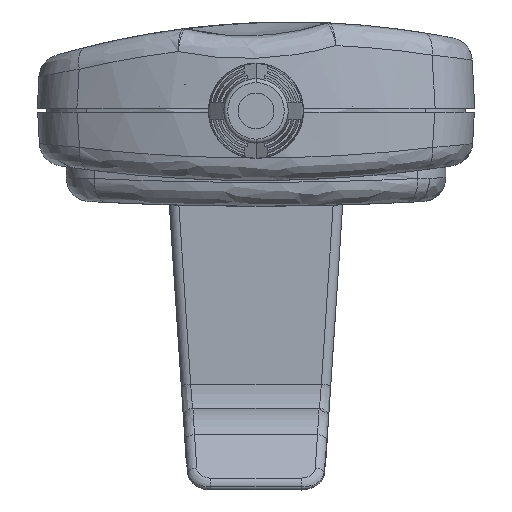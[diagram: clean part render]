
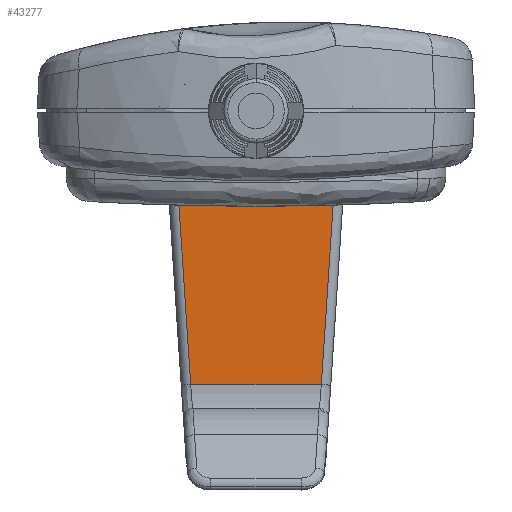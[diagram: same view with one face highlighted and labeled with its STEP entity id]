
A CAD part, front view. The second image highlights one B-rep face of the part: STEP entity #43277.
In plain terms, the highlighted planar face has unit normal (0, -1, -0.021).
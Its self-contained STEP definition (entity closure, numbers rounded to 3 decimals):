
#12397=DIRECTION('',(-1.,0.,0.));
#12398=VECTOR('',#12397,24.2);
#12399=CARTESIAN_POINT('',(12.1,62.25,-2.85));
#12400=LINE('',#12399,#12398);
#12401=DIRECTION('',(0.,0.021,-1.));
#12402=VECTOR('',#12401,6.001);
#12403=CARTESIAN_POINT('',(12.1,62.25,-2.85));
#12404=LINE('',#12403,#12402);
#12405=DIRECTION('',(-1.,0.,0.));
#12406=VECTOR('',#12405,1.781);
#12407=CARTESIAN_POINT('',(11.78,62.378,-8.85));
#12408=LINE('',#12407,#12406);
#12409=DIRECTION('',(-0.066,0.021,-0.998));
#12410=VECTOR('',#12409,26.895);
#12411=CARTESIAN_POINT('',(9.999,62.378,-8.85));
#12412=LINE('',#12411,#12410);
#12413=DIRECTION('',(-0.066,-0.021,0.998));
#12414=VECTOR('',#12413,26.895);
#12415=CARTESIAN_POINT('',(-8.224,62.948,
-35.68));
#12416=LINE('',#12415,#12414);
#12526=DIRECTION('',(1.,0.,0.));
#12527=VECTOR('',#12526,0.32);
#12528=CARTESIAN_POINT('',(11.78,62.378,-8.85));
#12529=LINE('',#12528,#12527);
#12602=DIRECTION('',(0.,0.021,-1.));
#12603=VECTOR('',#12602,6.001);
#12604=CARTESIAN_POINT('',(-12.1,62.25,-2.85));
#12605=LINE('',#12604,#12603);
#12632=DIRECTION('',(-1.,0.,0.));
#12633=VECTOR('',#12632,0.32);
#12634=CARTESIAN_POINT('',(-11.78,62.378,-8.85));
#12635=LINE('',#12634,#12633);
#12697=DIRECTION('',(1.,0.,0.));
#12698=VECTOR('',#12697,1.781);
#12699=CARTESIAN_POINT('',(-11.78,62.378,-8.85));
#12700=LINE('',#12699,#12698);
#13210=DIRECTION('',(1.,0.,0.));
#13211=VECTOR('',#13210,16.447);
#13212=CARTESIAN_POINT('',(-8.224,62.948,
-35.68));
#13213=LINE('',#13212,#13211);
#16213=CARTESIAN_POINT('',(9.999,62.378,-8.85));
#16214=CARTESIAN_POINT('',(8.224,62.948,
-35.68));
#16215=VERTEX_POINT('',#16213);
#16216=VERTEX_POINT('',#16214);
#16217=CARTESIAN_POINT('',(-8.224,62.948,
-35.68));
#16218=CARTESIAN_POINT('',(-9.999,62.378,-8.85));
#16219=VERTEX_POINT('',#16217);
#16220=VERTEX_POINT('',#16218);
#18767=CARTESIAN_POINT('',(12.1,62.378,-8.85));
#18768=VERTEX_POINT('',#18767);
#18771=CARTESIAN_POINT('',(11.78,62.378,-8.85));
#18772=VERTEX_POINT('',#18771);
#18779=CARTESIAN_POINT('',(-11.78,62.378,-8.85));
#18780=CARTESIAN_POINT('',(-12.1,62.378,-8.85));
#18781=VERTEX_POINT('',#18779);
#18782=VERTEX_POINT('',#18780);
#18801=CARTESIAN_POINT('',(12.1,62.25,-2.85));
#18803=VERTEX_POINT('',#18801);
#18825=CARTESIAN_POINT('',(-12.1,62.25,-2.85));
#18826=VERTEX_POINT('',#18825);
#43251=CARTESIAN_POINT('',(0.,62.599,-19.265));
#43252=DIRECTION('',(0.,1.,0.021));
#43253=DIRECTION('',(0.,-0.021,1.));
#43254=AXIS2_PLACEMENT_3D('',#43251,#43252,#43253);
#43255=PLANE('',#43254);
#43256=ORIENTED_EDGE('',*,*,#43230,.F.);
#43258=ORIENTED_EDGE('',*,*,#43257,.T.);
#43260=ORIENTED_EDGE('',*,*,#43259,.F.);
#43262=ORIENTED_EDGE('',*,*,#43261,.T.);
#43264=ORIENTED_EDGE('',*,*,#43263,.T.);
#43266=ORIENTED_EDGE('',*,*,#43265,.F.);
#43268=ORIENTED_EDGE('',*,*,#43267,.T.);
#43270=ORIENTED_EDGE('',*,*,#43269,.F.);
#43272=ORIENTED_EDGE('',*,*,#43271,.T.);
#43274=ORIENTED_EDGE('',*,*,#43273,.F.);
#43275=EDGE_LOOP('',(#43256,#43258,#43260,#43262,#43264,#43266,#43268,#43270,
#43272,#43274));
#43276=FACE_OUTER_BOUND('',#43275,.F.);
#43277=ADVANCED_FACE('',(#43276),#43255,.F.);
#43230=EDGE_CURVE('',#18803,#18826,#12400,.T.);
#43257=EDGE_CURVE('',#18803,#18768,#12404,.T.);
#43259=EDGE_CURVE('',#18772,#18768,#12529,.T.);
#43261=EDGE_CURVE('',#18772,#16215,#12408,.T.);
#43263=EDGE_CURVE('',#16215,#16216,#12412,.T.);
#43265=EDGE_CURVE('',#16219,#16216,#13213,.T.);
#43267=EDGE_CURVE('',#16219,#16220,#12416,.T.);
#43269=EDGE_CURVE('',#18781,#16220,#12700,.T.);
#43271=EDGE_CURVE('',#18781,#18782,#12635,.T.);
#43273=EDGE_CURVE('',#18826,#18782,#12605,.T.);
